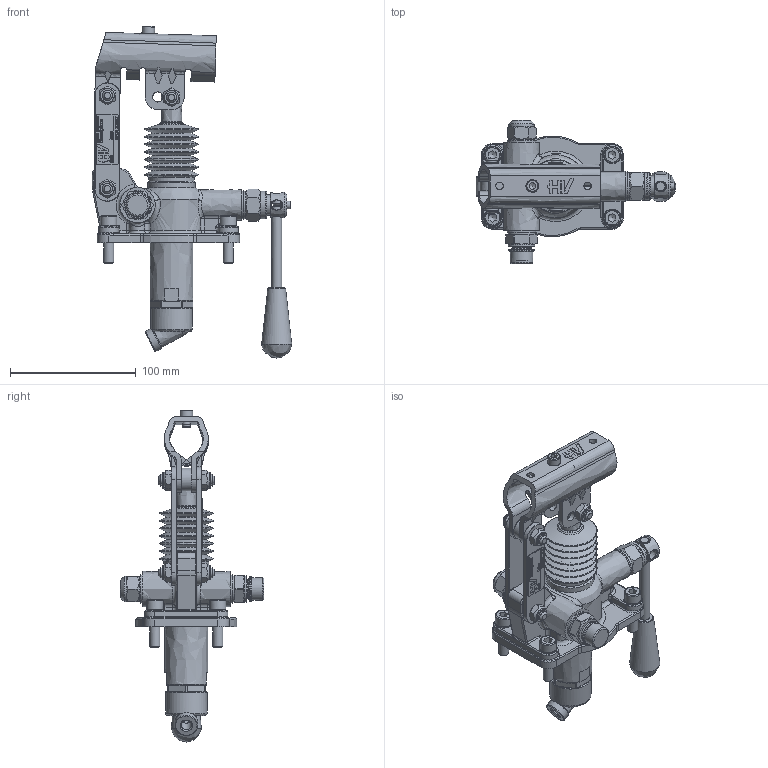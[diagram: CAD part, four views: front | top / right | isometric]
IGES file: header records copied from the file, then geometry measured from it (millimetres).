
Global section: file name: No Iges File Name specified; native system: Autodesk Inventor 2013; preprocessor: AutoDesk Inventor Iges Exporter R2013; author: christian.scardovi; date: 20240227.155123; units: millimetre
Bounding box: 158.47 x 114 x 263.69 mm (x, y, z)
Volume: 2550.7 mm3; surface area: 140595 mm2
Topology: 29 solids, 30 shells, 1613 faces, 4008 edges, 2531 vertices
Faces by surface type: bspline 1613
